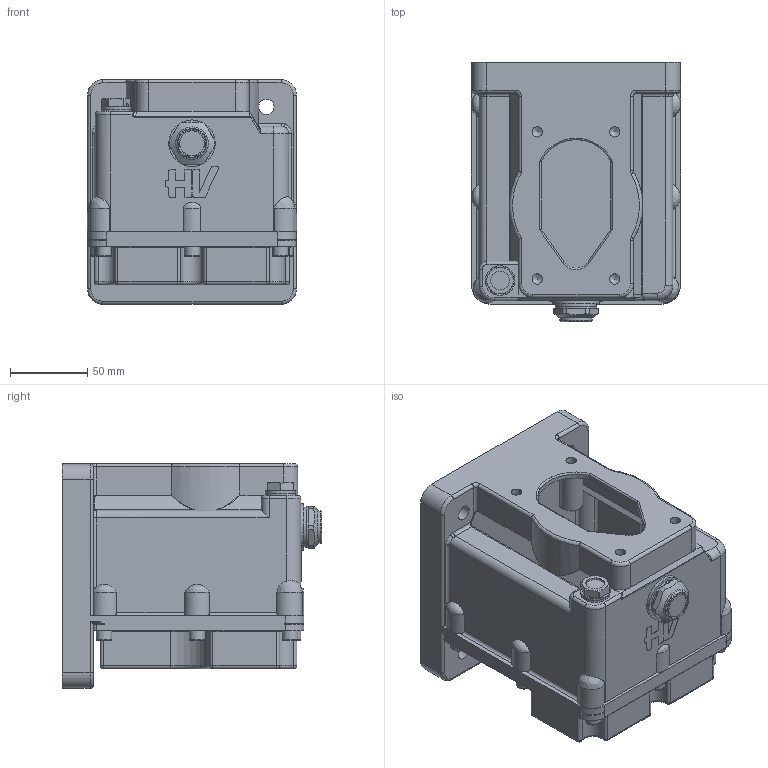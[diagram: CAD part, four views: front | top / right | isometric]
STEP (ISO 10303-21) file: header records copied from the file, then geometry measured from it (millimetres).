
FILE_DESCRIPTION((''),'2;1');
FILE_NAME('G:\HV_HYDRAULIC\AZIENDA_HV_HYDRAULIC\ARCHIVIO_DISEGNI\5_PRODOTTI_FINITI\4_SERBATOI\6500_SERBATOI\6500.0520_S1_al_(livello_olio)_(HV)\6500.0520.stp','2024-09-17T07:35:29',('christian.scardovi'),(''),'Autodesk Inventor 2013','Autodesk Inventor 2013','');
FILE_SCHEMA(('AUTOMOTIVE_DESIGN { 1 0 10303 214 1 1 1 1 }'));
Length unit declared in the file: millimetre
Products named in the file (1): 6500.0520
Bounding box: 135 x 167.5 x 145 mm (x, y, z)
Volume: 757539 mm3; surface area: 243122.2 mm2
Topology: 1 solids, 2 shells, 1116 faces, 2667 edges, 1558 vertices
Faces by surface type: cylinder 452, plane 324, torus 154, bspline 82, sphere 77, cone 27
Full cylindrical faces by diameter (mm): 2.15 x1, 6.647 x4, 7.8 x1, 10 x12, 11.445 x1, 12 x1, 14.8 x1, 15 x3, 16 x1, 18.631 x1, 19 x3, 19.2 x1, 19.3 x1, 21 x1, 26 x1, 26.8 x1, 30 x1
Entity records: 36023 total; most frequent: CARTESIAN_POINT 9630, DIRECTION 5589, ORIENTED_EDGE 5060, EDGE_CURVE 2530, AXIS2_PLACEMENT_3D 2222, VERTEX_POINT 1525, EDGE_LOOP 1240, VECTOR 1145
